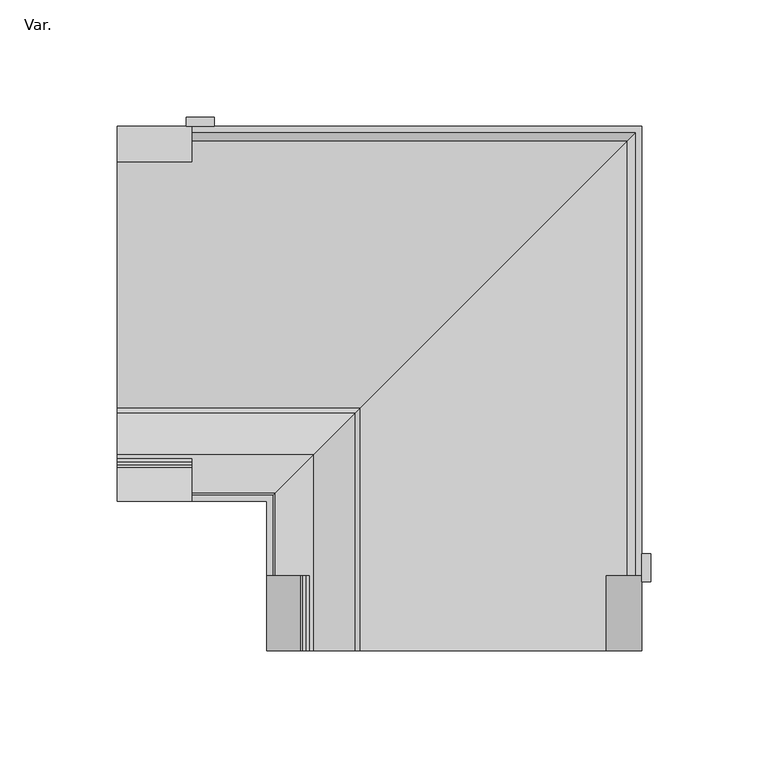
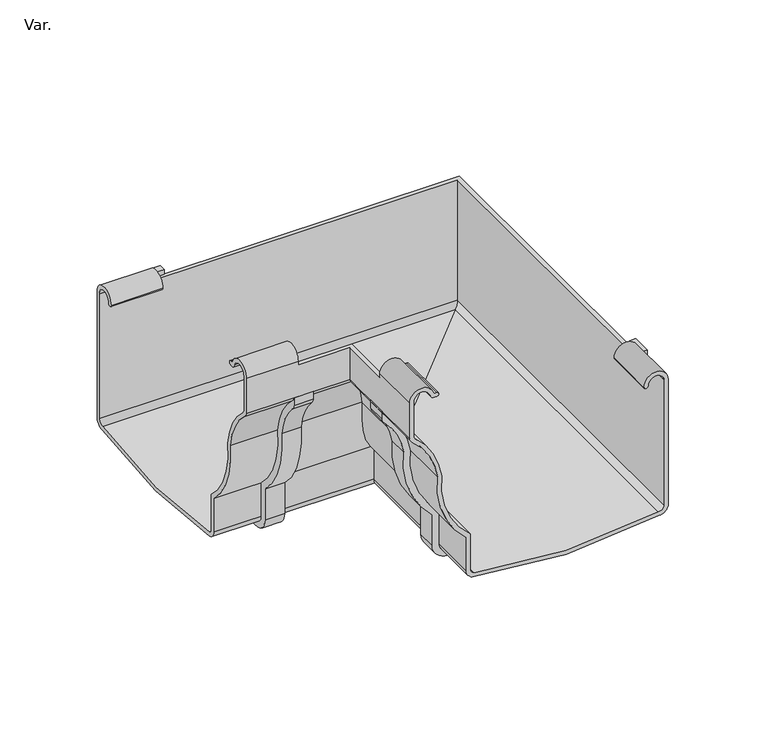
"""IFC4 building model written with IfcOpenShell, lengths in millimetres: pipe fitting geometry, PavcoWavin_UnionesDeTuberia_ZCanal Amazona_Unión Esquina Interna_NoUsarUnion : Var.."""

from ifc_helpers import new_model, si_unit, point, frame, frame_2d, origin, place, context, project, spatial, polyline, circle_curve, ellipse_curve, trimmed, segment, composite_curve, outline, extrude, source, transform, mapped, element, save
from ifc_brep_helpers import plane_surface, cylinder_surface, revolved_surface, advanced_brep


def var_6d9a4e36(model_context):
    return source(origin(), model_context, "Body", "SolidModel", [
        extrude(outline(composite_curve([segment(polyline([(67.1391462, 96.4962733), (67.1391462, 14.9603918)]), True, "CONTINUOUS"), segment(trimmed(circle_curve(frame_2d((57.6391462, 14.9603918)), 9.5), [point((67.1391462, 14.9603918))], [point((58.1593316, 5.4746443))], False, "CARTESIAN"), True, "CONTINUOUS"), segment(trimmed(circle_curve(frame_2d((0.2035402, 309.4999331)), 309.5), [point((58.1593316, 5.4746443))], [point((-58.1520806, 5.5511355))], False, "CARTESIAN"), True, "CONTINUOUS"), segment(trimmed(circle_curve(frame_2d((-56.3608741, 14.8807432)), 9.5), [point((-58.1520806, 5.5511355))], [point((-65.8608368, 14.9073616))], False, "CARTESIAN"), True, "CONTINUOUS"), segment(polyline([(-65.8608368, 14.9073616), (-65.8608368, 35.1173873)]), True, "CONTINUOUS"), segment(trimmed(circle_curve(frame_2d((-27.3837892, 76.4908911)), 56.5), [point((-65.8608368, 35.1173873))], [point((-83.5808004, 82.3343431))], False, "CARTESIAN"), True, "CONTINUOUS"), segment(trimmed(circle_curve(frame_2d((-124.6017275, 76.0467725)), 41.5), [point((-83.5808004, 82.3343431))], [point((-95.1706816, 105.305336))], True, "CARTESIAN"), True, "CONTINUOUS"), segment(trimmed(circle_curve(frame_2d((-90.8943152, 109.5566406)), 6.03), [point((-95.1706816, 105.305336))], [point((-96.8558619, 108.6506267))], False, "CARTESIAN"), True, "CONTINUOUS"), segment(polyline([(-96.8558619, 108.6506267), (-96.8558619, 113.6433286)]), True, "CONTINUOUS"), segment(trimmed(circle_curve(frame_2d((-91.4860039, 114.8327088)), 5.5), [point((-96.8558619, 113.6433286))], [point((-95.0573074, 110.6499117))], True, "CARTESIAN"), True, "CONTINUOUS"), segment(trimmed(circle_curve(frame_2d((-124.6017275, 76.0467725)), 45.5), [point((-95.0573074, 110.6499117))], [point((-79.5489715, 82.4106685))], False, "CARTESIAN"), True, "CONTINUOUS"), segment(trimmed(circle_curve(frame_2d((-27.3837892, 76.4908911)), 52.5), [point((-79.5489715, 82.4106685))], [point((-61.8608368, 36.8981747))], True, "CARTESIAN"), True, "CONTINUOUS"), segment(polyline([(-61.8608368, 36.8981747), (-61.8608368, 14.9009967)]), True, "CONTINUOUS"), segment(trimmed(circle_curve(frame_2d((-56.3608741, 14.8807432)), 5.5), [point((-61.8608368, 14.9009967))], [point((-57.3978884, 9.4793914))], True, "CARTESIAN"), True, "CONTINUOUS"), segment(trimmed(circle_curve(frame_2d((0.2035402, 309.4999331)), 305.5), [point((-57.3978884, 9.4793914))], [point((57.7081808, 9.4608251))], True, "CARTESIAN"), True, "CONTINUOUS"), segment(trimmed(circle_curve(frame_2d((57.6391462, 14.9603918)), 5.5), [point((57.7081808, 9.4608251))], [point((63.1391462, 14.9603918))], True, "CARTESIAN"), True, "CONTINUOUS"), segment(polyline([(63.1391462, 14.9603918), (63.1391462, 96.4962733), (67.1391462, 96.4962733)]), True, "CONTINUOUS")], self_intersect=False)), frame((29.5, 0.0, 0.0), z_axis=(1.0, 0.0, 0.0), x_axis=(0.0, 1.0, 0.0)), (0.0, 0.0, 1.0), 12.0),
        extrude(outline(composite_curve([segment(polyline([(96.4962733, 228.0), (96.4962733, 224.0), (14.9603918, 224.0)]), True, "CONTINUOUS"), segment(trimmed(circle_curve(frame_2d((14.9603918, 218.5)), 5.5), [point((14.9603918, 224.0))], [point((9.4608251, 218.5690345))], True, "CARTESIAN"), True, "CONTINUOUS"), segment(trimmed(circle_curve(frame_2d((309.4999331, 161.0643939)), 305.5), [point((9.4608251, 218.5690345))], [point((9.4793914, 103.4629654))], True, "CARTESIAN"), True, "CONTINUOUS"), segment(trimmed(circle_curve(frame_2d((14.8807432, 104.4999797)), 5.5), [point((9.4793914, 103.4629654))], [point((14.9009967, 99.000017))], True, "CARTESIAN"), True, "CONTINUOUS"), segment(polyline([(14.9009967, 99.000017), (36.8981747, 99.000017)]), True, "CONTINUOUS"), segment(trimmed(circle_curve(frame_2d((76.4908911, 133.4770645)), 52.5), [point((36.8981747, 99.000017))], [point((82.4106685, 81.3118823))], True, "CARTESIAN"), True, "CONTINUOUS"), segment(trimmed(circle_curve(frame_2d((76.0467725, 36.2591263)), 45.5), [point((82.4106685, 81.3118823))], [point((110.6499117, 65.8035463))], False, "CARTESIAN"), True, "CONTINUOUS"), segment(trimmed(circle_curve(frame_2d((114.8327088, 69.3748499)), 5.5), [point((110.6499117, 65.8035463))], [point((113.6433286, 64.0049919))], True, "CARTESIAN"), True, "CONTINUOUS"), segment(polyline([(113.6433286, 64.0049919), (108.6506267, 64.0049919)]), True, "CONTINUOUS"), segment(trimmed(circle_curve(frame_2d((109.5566406, 69.9665386)), 6.03), [point((108.6506267, 64.0049919))], [point((105.305336, 65.6901721))], False, "CARTESIAN"), True, "CONTINUOUS"), segment(trimmed(circle_curve(frame_2d((76.0467725, 36.2591263)), 41.5), [point((105.305336, 65.6901721))], [point((82.3343431, 77.2800533))], True, "CARTESIAN"), True, "CONTINUOUS"), segment(trimmed(circle_curve(frame_2d((76.4908911, 133.4770645)), 56.5), [point((82.3343431, 77.2800533))], [point((35.1173873, 95.000017))], False, "CARTESIAN"), True, "CONTINUOUS"), segment(polyline([(35.1173873, 95.000017), (14.9073616, 95.000017)]), True, "CONTINUOUS"), segment(trimmed(circle_curve(frame_2d((14.8807432, 104.4999797)), 9.5), [point((14.9073616, 95.000017))], [point((5.5511355, 102.7087732))], False, "CARTESIAN"), True, "CONTINUOUS"), segment(trimmed(circle_curve(frame_2d((309.4999331, 161.0643939)), 309.5), [point((5.5511355, 102.7087732))], [point((5.4746443, 219.0201853))], False, "CARTESIAN"), True, "CONTINUOUS"), segment(trimmed(circle_curve(frame_2d((14.9603918, 218.5)), 9.5), [point((5.4746443, 219.0201853))], [point((14.9603918, 228.0))], False, "CARTESIAN"), True, "CONTINUOUS"), segment(polyline([(14.9603918, 228.0), (96.4962733, 228.0)]), True, "CONTINUOUS")], self_intersect=False)), frame((0.0, -131.3608538, 0.0), z_axis=(0.0, 1.0, 0.0), x_axis=(0.0, 0.0, 1.0)), (0.0, 0.0, 1.0), 12.0),
        advanced_brep(
        [(0.0, 60.6391462, 96.4962733), (0.0, 50.6391462, 96.4962733), (0.0, 48.1391462, 96.4962733), (0.0, 63.1391462, 96.4962733), (0.0, 63.1391462, 14.8917906), (0.0, 57.3791008, 9.3979416), (0.0, -56.9720205, 9.3979416), (0.0, -61.8608538, 14.8917906), (0.0, -61.8608538, 36.8981894), (0.0, -79.5489715, 82.4106685), (0.0, -95.0573074, 110.6499117), (0.0, -96.8558619, 113.6433286), (0.0, -96.8558619, 136.5003446), (0.0, -82.4334339, 139.3865168), (0.0, -81.4533263, 137.9155581), (0.0, -80.1012344, 137.9155581), (0.0, -80.1012344, 135.4155581), (0.0, -82.3118155, 135.4155581), (0.0, -83.091705, 135.8658276), (0.0, -84.6616024, 138.2219509), (0.0, -94.3558619, 136.5003446), (0.0, -94.3558619, 114.5511348), (0.0, -93.2975048, 112.2642105), (0.0, -77.0397315, 82.3464353), (0.0, -59.3608538, 38.0530537), (0.0, -59.3608538, 14.8917906), (0.0, -56.9265182, 11.9345513), (0.0, 57.1074368, 11.8912192), (0.0, 60.6391462, 14.8917906), (221.5, 60.6391462, 14.8917906), (221.5, 60.6391462, 93.5145617), (32.0, 60.6391462, 93.5145617), (32.0, 60.6391462, 96.4962733), (217.9682906, 57.1074368, 11.8912192), (218.5003862, 57.6395324, 11.8436545), (103.9343355, -56.9265182, 11.9345513), (161.0643939, 0.2035402, 6.4999331), (101.5, -59.3608538, 14.8917906), (101.5, -59.3608538, 38.0530537), (83.8211223, -77.0397315, 82.3464353), (67.563349, -93.2975048, 112.2642105), (66.5049919, -94.3558619, 114.5511348), (32.0, -94.3558619, 136.5003446), (32.0, -94.3558619, 134.3054661), (66.5049919, -94.3558619, 134.3054661), (32.0, -84.6616024, 138.2219509), (32.0, -83.091705, 135.8658276), (32.0, -82.3118155, 135.4155581), (32.0, -80.1012344, 135.4155581), (32.0, -80.1012344, 137.9155581), (32.0, -81.4533263, 137.9155581), (64.0049919, -96.8558619, 113.6433286), (64.0049919, -96.8558619, 134.3054661), (32.0, -96.8558619, 134.3054661), (32.0, -96.8558619, 136.5003446), (65.8035463, -95.0573074, 110.6499117), (81.3118823, -79.5489715, 82.4106685), (99.0, -61.8608538, 36.8981894), (99.0, -61.8608538, 14.8917906), (103.8888333, -56.9720205, 9.3979416), (218.2399545, 57.3791008, 9.3979416), (161.0643939, 0.2035402, 3.9999331), (224.0, 63.1391462, 14.8917906), (218.5, 57.6391462, 9.3917906), (32.0, 63.1391462, 96.4962733), (32.0, 63.1391462, 93.5145617), (224.0, 63.1391462, 93.5145617), (32.0, 48.1391462, 96.4962733), (32.0, 50.6391462, 96.4962733), (32.0, -82.4334339, 139.3865168), (64.0049919, -128.8608538, 134.3054661), (66.5049919, -128.8608538, 134.3054661), (221.5, -128.8608538, 93.5145617), (224.0, -128.8608538, 93.5145617), (64.0049919, -128.8608538, 136.5003446), (78.4274199, -128.8608538, 139.3865168), (79.4075275, -128.8608538, 137.9155581), (80.7596194, -128.8608538, 137.9155581), (80.7596194, -128.8608538, 135.4155581), (78.5490383, -128.8608538, 135.4155581), (77.7691488, -128.8608538, 135.8658276), (76.1992513, -128.8608538, 138.2219509), (66.5049919, -128.8608538, 136.5003446), (221.5, -128.8608538, 96.4962733), (211.5, -128.8608538, 96.4962733), (209.0, -128.8608538, 96.4962733), (224.0, -128.8608538, 96.4962733), (221.5, -160.8608538, 96.4962733), (221.5, -160.8608538, 14.8917906), (217.9682906, -160.8608538, 11.8912192), (103.9343355, -160.8608538, 11.9345513), (101.5, -160.8608538, 14.8917906), (101.5, -160.8608538, 38.0530537), (83.8211223, -160.8608538, 82.3464353), (67.563349, -160.8608538, 112.2642105), (66.5049919, -160.8608538, 114.5511348), (66.5049919, -160.8608538, 136.5003446), (76.1992513, -160.8608538, 138.2219509), (77.7691488, -160.8608538, 135.8658276), (78.5490383, -160.8608538, 135.4155581), (80.7596194, -160.8608538, 135.4155581), (80.7596194, -160.8608538, 137.9155581), (79.4075275, -160.8608538, 137.9155581), (78.4274199, -160.8608538, 139.3865168), (64.0049919, -160.8608538, 136.5003446), (64.0049919, -160.8608538, 113.6433286), (65.8035463, -160.8608538, 110.6499117), (81.3118823, -160.8608538, 82.4106685), (99.0, -160.8608538, 36.8981894), (99.0, -160.8608538, 14.8917906), (103.8888333, -160.8608538, 9.3979416), (218.2399545, -160.8608538, 9.3979416), (224.0, -160.8608538, 14.8917906), (224.0, -160.8608538, 96.4962733), (209.0, -160.8608538, 96.4962733), (211.5, -160.8608538, 96.4962733)],
        [
            (0, 1, circle_curve(frame((0.0, 55.6391462, 96.4962733), z_axis=(1.0, 0.0, 0.0), x_axis=(0.0, -1.0, 0.0)), 5.0)),
            (1, 2, circle_curve(frame((0.0, 49.3891462, 96.4962733), z_axis=(-1.0, 0.0, 0.0), x_axis=(0.0, -1.0, 0.0)), 1.25)),
            (2, 3, circle_curve(frame((0.0, 55.6391462, 96.4962733), z_axis=(-1.0, 0.0, 0.0), x_axis=(0.0, -1.0, 0.0)), 7.5)),
            (3, 4),
            (4, 5, circle_curve(frame((0.0, 57.6391462, 14.8917906), z_axis=(-1.0, 0.0, 0.0), x_axis=(0.0, -1.0, 0.0)), 5.5)),
            (5, 6, circle_curve(frame((0.0, 0.2035402, 309.4999331), z_axis=(-1.0, 0.0, 0.0), x_axis=(0.0, -1.0, 0.0)), 305.5)),
            (6, 7, circle_curve(frame((0.0, -56.3295681, 14.8917906), z_axis=(-1.0, 0.0, 0.0), x_axis=(0.0, -1.0, 0.0)), 5.5312857)),
            (7, 8),
            (8, 9, circle_curve(frame((0.0, -27.3837892, 76.4908911), z_axis=(-1.0, 0.0, 0.0), x_axis=(0.0, -1.0, 0.0)), 52.5)),
            (9, 10, circle_curve(frame((0.0, -124.6017275, 76.0467725), z_axis=(1.0, 0.0, 0.0), x_axis=(0.0, -1.0, 0.0)), 45.5)),
            (10, 11, circle_curve(frame((0.0, -91.4860039, 114.8327088), z_axis=(-1.0, 0.0, 0.0), x_axis=(0.0, -1.0, 0.0)), 5.5)),
            (11, 12),
            (12, 13, circle_curve(frame((0.0, -89.3558619, 136.5003446), z_axis=(-1.0, 0.0, 0.0), x_axis=(0.0, -1.0, 0.0)), 7.5)),
            (13, 14),
            (14, 15),
            (15, 16, circle_curve(frame((0.0, -80.1012344, 136.6655581), z_axis=(-1.0, 0.0, 0.0), x_axis=(0.0, -1.0, 0.0)), 1.25)),
            (16, 17),
            (17, 18, circle_curve(frame((0.0, -82.0479215, 136.7731747), z_axis=(-1.0, 0.0, 0.0), x_axis=(0.0, -1.0, 0.0)), 1.3830266)),
            (18, 19),
            (19, 20, circle_curve(frame((0.0, -89.3558619, 136.5003446), z_axis=(1.0, 0.0, 0.0), x_axis=(0.0, -1.0, 0.0)), 5.0)),
            (20, 21),
            (21, 22, circle_curve(frame((0.0, -91.3558619, 114.5511348), z_axis=(1.0, 0.0, 0.0), x_axis=(0.0, -1.0, 0.0)), 3.0)),
            (22, 23, circle_curve(frame((0.0, -124.6017275, 75.8767725), z_axis=(-1.0, 0.0, 0.0), x_axis=(0.0, -1.0, 0.0)), 48.0)),
            (23, 24, circle_curve(frame((0.0, -27.3837892, 76.4908911), z_axis=(1.0, 0.0, 0.0), x_axis=(0.0, -1.0, 0.0)), 50.0)),
            (24, 25),
            (25, 26, circle_curve(frame((0.0, -56.3608741, 14.8807432), z_axis=(1.0, 0.0, 0.0), x_axis=(0.0, -1.0, 0.0)), 3.0)),
            (26, 27, circle_curve(frame((0.0, 0.2035402, 309.4999331), z_axis=(1.0, 0.0, 0.0), x_axis=(0.0, -1.0, 0.0)), 303.0)),
            (27, 28, circle_curve(frame((0.0, 57.6395324, 14.8436545), z_axis=(1.0, 0.0, 0.0), x_axis=(0.0, 1.0, 0.0)), 3.0)),
            (28, 0),
            (28, 29),
            (29, 30),
            (30, 31),
            (31, 32),
            (32, 0),
            (27, 33),
            (33, 34, ellipse_curve(frame((218.5003862, 57.6395324, 14.8436545), z_axis=(0.7071067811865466, -0.7071067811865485, 0.0), x_axis=(-0.7071067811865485, -0.7071067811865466, 0.0)), 4.2426407, 3.0)),
            (34, 29, ellipse_curve(frame((218.5003862, 57.6395324, 14.8436545), z_axis=(0.7071067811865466, -0.7071067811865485, 0.0), x_axis=(-0.7071067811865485, -0.7071067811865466, 0.0)), 4.2426407, 3.0)),
            (26, 35),
            (35, 36, ellipse_curve(frame((161.0643939, 0.2035402, 309.4999331), z_axis=(0.7071067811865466, -0.7071067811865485, 0.0), x_axis=(-0.7071067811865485, -0.7071067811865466, 0.0)), 428.5067094, 303.0)),
            (36, 33, ellipse_curve(frame((161.0643939, 0.2035402, 309.4999331), z_axis=(0.7071067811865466, -0.7071067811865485, 0.0), x_axis=(-0.7071067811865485, -0.7071067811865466, 0.0)), 428.5067094, 303.0)),
            (25, 37),
            (37, 35, ellipse_curve(frame((104.4999797, -56.3608741, 14.8807432), z_axis=(0.7071067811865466, -0.7071067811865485, 0.0), x_axis=(-0.7071067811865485, -0.7071067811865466, 0.0)), 4.2426407, 3.0)),
            (24, 38),
            (38, 37),
            (23, 39),
            (39, 38, ellipse_curve(frame((133.4770645, -27.3837892, 76.4908911), z_axis=(0.7071067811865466, -0.7071067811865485, 0.0), x_axis=(-0.7071067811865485, -0.7071067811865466, 0.0)), 70.7106781, 50.0)),
            (22, 40),
            (40, 39, ellipse_curve(frame((36.2591263, -124.6017275, 75.8767725), z_axis=(-0.7071067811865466, 0.7071067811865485, 0.0), x_axis=(0.7071067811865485, 0.7071067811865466, 0.0)), 67.882251, 48.0)),
            (21, 41),
            (41, 40, ellipse_curve(frame((69.5049919, -91.3558619, 114.5511348), z_axis=(0.7071067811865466, -0.7071067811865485, 0.0), x_axis=(-0.7071067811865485, -0.7071067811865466, 0.0)), 4.2426407, 3.0)),
            (20, 42),
            (42, 43),
            (43, 44),
            (44, 41),
            (19, 45),
            (45, 42, circle_curve(frame((32.0, -89.3558619, 136.5003446), z_axis=(1.0, 0.0, 0.0), x_axis=(0.0, -1.0, 0.0)), 5.0)),
            (18, 46),
            (46, 45),
            (17, 47),
            (47, 46, circle_curve(frame((32.0, -82.0479215, 136.7731747), z_axis=(-1.0, 0.0, 0.0), x_axis=(0.0, -1.0, 0.0)), 1.3830266)),
            (16, 48),
            (48, 47),
            (15, 49),
            (49, 48, circle_curve(frame((32.0, -80.1012344, 136.6655581), z_axis=(-1.0, 0.0, 0.0), x_axis=(0.0, -1.0, 0.0)), 1.25)),
            (14, 50),
            (50, 49),
            (11, 51),
            (51, 52),
            (52, 53),
            (53, 54),
            (54, 12),
            (10, 55),
            (55, 51, ellipse_curve(frame((69.3748499, -91.4860039, 114.8327088), z_axis=(-0.7071067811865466, 0.7071067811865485, 0.0), x_axis=(0.7071067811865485, 0.7071067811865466, 0.0)), 7.7781746, 5.5)),
            (9, 56),
            (56, 55, ellipse_curve(frame((36.2591263, -124.6017275, 76.0467725), z_axis=(0.7071067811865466, -0.7071067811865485, 0.0), x_axis=(-0.7071067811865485, -0.7071067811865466, 0.0)), 64.3467171, 45.5)),
            (8, 57),
            (57, 56, ellipse_curve(frame((133.4770645, -27.3837892, 76.4908911), z_axis=(-0.7071067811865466, 0.7071067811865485, 0.0), x_axis=(0.7071067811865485, 0.7071067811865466, 0.0)), 74.246212, 52.5)),
            (7, 58),
            (58, 57),
            (6, 59),
            (59, 58, ellipse_curve(frame((104.5312857, -56.3295681, 14.8917906), z_axis=(-0.7071067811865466, 0.7071067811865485, 0.0), x_axis=(0.7071067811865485, 0.7071067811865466, 0.0)), 7.8224192, 5.5312857)),
            (5, 60),
            (60, 61, ellipse_curve(frame((161.0643939, 0.2035402, 309.4999331), z_axis=(-0.7071067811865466, 0.7071067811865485, 0.0), x_axis=(0.7071067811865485, 0.7071067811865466, 0.0)), 432.0422433, 305.5)),
            (61, 59, ellipse_curve(frame((161.0643939, 0.2035402, 309.4999331), z_axis=(-0.7071067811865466, 0.7071067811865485, 0.0), x_axis=(0.7071067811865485, 0.7071067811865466, 0.0)), 432.0422433, 305.5)),
            (4, 62),
            (62, 63, ellipse_curve(frame((218.5, 57.6391462, 14.8917906), z_axis=(-0.7071067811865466, 0.7071067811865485, 0.0), x_axis=(0.7071067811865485, 0.7071067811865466, 0.0)), 7.7781746, 5.5)),
            (63, 60, ellipse_curve(frame((218.5, 57.6391462, 14.8917906), z_axis=(-0.7071067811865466, 0.7071067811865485, 0.0), x_axis=(0.7071067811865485, 0.7071067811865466, 0.0)), 7.7781746, 5.5)),
            (3, 64),
            (64, 65),
            (65, 66),
            (66, 62),
            (2, 67),
            (67, 64, circle_curve(frame((32.0, 55.6391462, 96.4962733), z_axis=(-1.0, 0.0, 0.0), x_axis=(0.0, -1.0, 0.0)), 7.5)),
            (1, 68),
            (68, 67, circle_curve(frame((32.0, 49.3891462, 96.4962733), z_axis=(-1.0, 0.0, 0.0), x_axis=(0.0, -1.0, 0.0)), 1.25)),
            (32, 68, circle_curve(frame((32.0, 55.6391462, 96.4962733), z_axis=(1.0, 0.0, 0.0), x_axis=(0.0, -1.0, 0.0)), 5.0)),
            (53, 43),
            (50, 69),
            (69, 54, circle_curve(frame((32.0, -89.3558619, 136.5003446), z_axis=(1.0, 0.0, 0.0), x_axis=(0.0, -1.0, 0.0)), 7.5)),
            (31, 65),
            (52, 70),
            (70, 71),
            (71, 44),
            (30, 72),
            (72, 73),
            (73, 66),
            (13, 69),
            (70, 74),
            (74, 75, circle_curve(frame((71.5049919, -128.8608538, 136.5003446), z_axis=(0.0, 1.0, 0.0), x_axis=(-1.0, 0.0, 0.0)), 7.5)),
            (75, 76),
            (76, 77),
            (77, 78, circle_curve(frame((80.7596194, -128.8608538, 136.6655581), z_axis=(0.0, 1.0, 0.0), x_axis=(-1.0, 0.0, 0.0)), 1.25)),
            (78, 79),
            (79, 80, circle_curve(frame((78.8129322, -128.8608538, 136.7731747), z_axis=(0.0, 1.0, 0.0), x_axis=(-1.0, 0.0, 0.0)), 1.3830266)),
            (80, 81),
            (81, 82, circle_curve(frame((71.5049919, -128.8608538, 136.5003446), z_axis=(0.0, -1.0, 0.0), x_axis=(-1.0, 0.0, 0.0)), 5.0)),
            (82, 71),
            (72, 83),
            (83, 84, circle_curve(frame((216.5, -128.8608538, 96.4962733), z_axis=(0.0, -1.0, 0.0), x_axis=(-1.0, 0.0, 0.0)), 5.0)),
            (84, 85, circle_curve(frame((210.25, -128.8608538, 96.4962733), z_axis=(0.0, 1.0, 0.0), x_axis=(-1.0, 0.0, 0.0)), 1.25)),
            (85, 86, circle_curve(frame((216.5, -128.8608538, 96.4962733), z_axis=(0.0, 1.0, 0.0), x_axis=(-1.0, 0.0, 0.0)), 7.5)),
            (86, 73),
            (87, 88),
            (88, 89, circle_curve(frame((218.5003862, -160.8608538, 14.8436545), z_axis=(0.0, 1.0, 0.0), x_axis=(1.0, 0.0, 0.0)), 3.0)),
            (89, 90, circle_curve(frame((161.0643939, -160.8608538, 309.4999331), z_axis=(0.0, 1.0, 0.0), x_axis=(-1.0, 0.0, 0.0)), 303.0)),
            (90, 91, circle_curve(frame((104.4999797, -160.8608538, 14.8807432), z_axis=(0.0, 1.0, 0.0), x_axis=(-1.0, 0.0, 0.0)), 3.0)),
            (91, 92),
            (92, 93, circle_curve(frame((133.4770645, -160.8608538, 76.4908911), z_axis=(0.0, 1.0, 0.0), x_axis=(-1.0, 0.0, 0.0)), 50.0)),
            (93, 94, circle_curve(frame((36.2591263, -160.8608538, 75.8767725), z_axis=(0.0, -1.0, 0.0), x_axis=(-1.0, 0.0, 0.0)), 48.0)),
            (94, 95, circle_curve(frame((69.5049919, -160.8608538, 114.5511348), z_axis=(0.0, 1.0, 0.0), x_axis=(-1.0, 0.0, 0.0)), 3.0)),
            (95, 96),
            (96, 97, circle_curve(frame((71.5049919, -160.8608538, 136.5003446), z_axis=(0.0, 1.0, 0.0), x_axis=(-1.0, 0.0, 0.0)), 5.0)),
            (97, 98),
            (98, 99, circle_curve(frame((78.8129322, -160.8608538, 136.7731747), z_axis=(0.0, -1.0, 0.0), x_axis=(-1.0, 0.0, 0.0)), 1.3830266)),
            (99, 100),
            (100, 101, circle_curve(frame((80.7596194, -160.8608538, 136.6655581), z_axis=(0.0, -1.0, 0.0), x_axis=(-1.0, 0.0, 0.0)), 1.25)),
            (101, 102),
            (102, 103),
            (103, 104, circle_curve(frame((71.5049919, -160.8608538, 136.5003446), z_axis=(0.0, -1.0, 0.0), x_axis=(-1.0, 0.0, 0.0)), 7.5)),
            (104, 105),
            (105, 106, circle_curve(frame((69.3748499, -160.8608538, 114.8327088), z_axis=(0.0, -1.0, 0.0), x_axis=(-1.0, 0.0, 0.0)), 5.5)),
            (106, 107, circle_curve(frame((36.2591263, -160.8608538, 76.0467725), z_axis=(0.0, 1.0, 0.0), x_axis=(-1.0, 0.0, 0.0)), 45.5)),
            (107, 108, circle_curve(frame((133.4770645, -160.8608538, 76.4908911), z_axis=(0.0, -1.0, 0.0), x_axis=(-1.0, 0.0, 0.0)), 52.5)),
            (108, 109),
            (109, 110, circle_curve(frame((104.5312857, -160.8608538, 14.8917906), z_axis=(0.0, -1.0, 0.0), x_axis=(-1.0, 0.0, 0.0)), 5.5312857)),
            (110, 111, circle_curve(frame((161.0643939, -160.8608538, 309.4999331), z_axis=(0.0, -1.0, 0.0), x_axis=(-1.0, 0.0, 0.0)), 305.5)),
            (111, 112, circle_curve(frame((218.5, -160.8608538, 14.8917906), z_axis=(0.0, -1.0, 0.0), x_axis=(-1.0, 0.0, 0.0)), 5.5)),
            (112, 113),
            (113, 114, circle_curve(frame((216.5, -160.8608538, 96.4962733), z_axis=(0.0, -1.0, 0.0), x_axis=(-1.0, 0.0, 0.0)), 7.5)),
            (114, 115, circle_curve(frame((210.25, -160.8608538, 96.4962733), z_axis=(0.0, -1.0, 0.0), x_axis=(-1.0, 0.0, 0.0)), 1.25)),
            (115, 87, circle_curve(frame((216.5, -160.8608538, 96.4962733), z_axis=(0.0, 1.0, 0.0), x_axis=(-1.0, 0.0, 0.0)), 5.0)),
            (87, 83),
            (29, 88),
            (33, 89),
            (35, 90),
            (37, 91),
            (38, 92),
            (39, 93),
            (40, 94),
            (41, 95),
            (82, 96),
            (81, 97),
            (80, 98),
            (79, 99),
            (78, 100),
            (77, 101),
            (76, 102),
            (104, 74),
            (51, 105),
            (55, 106),
            (56, 107),
            (57, 108),
            (58, 109),
            (59, 110),
            (60, 111),
            (62, 112),
            (86, 113),
            (85, 114),
            (84, 115),
            (75, 103),
        ],
        [
            plane_surface(frame((0.0, 60.6391462, 15.6878033), z_axis=(-1.0, 0.0, 0.0), x_axis=(0.0, 0.0, 1.0))),
            plane_surface(frame((224.0, 60.6391462, 96.4962733), z_axis=(0.0, -1.0, 0.0), x_axis=(-1.0, 0.0, 0.0))),
            revolved_surface(polyline([(0.0, 60.6395324, 14.8436545), (221.50038620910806, 60.6395324, 14.8436545)]), (0.0, 57.6395324, 14.8436545), (-1.0, 0.0, 0.0)),
            revolved_surface(polyline([(-141.9356061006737, -302.7964598, 309.4999331), (464.06439390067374, -302.7964598, 309.4999331)]), (0.0, 0.2035402, 309.4999331), (-1.0, 0.0, 0.0)),
            revolved_surface(polyline([(0.0, -59.3608741, 14.8807432), (107.49997970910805, -59.3608741, 14.8807432)]), (0.0, -56.3608741, 14.8807432), (-1.0, 0.0, 0.0)),
            plane_surface(frame((224.0, -59.3608538, 14.8917906), z_axis=(0.0, 1.0, 0.0), x_axis=(-1.0, 0.0, 0.0))),
            revolved_surface(polyline([(0.0, -77.3837892, 76.4908911), (183.47706448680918, -77.3837892, 76.4908911)]), (0.0, -27.3837892, 76.4908911), (-1.0, 0.0, 0.0)),
            cylinder_surface(frame((0.0, -124.6017275, 75.8767725), z_axis=(1.0, 0.0, 0.0), x_axis=(0.0, -1.0, 0.0)), 48.0),
            revolved_surface(polyline([(0.0, -94.3558619, 114.5511348), (72.50499190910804, -94.3558619, 114.5511348)]), (0.0, -91.3558619, 114.5511348), (-1.0, 0.0, 0.0)),
            plane_surface(frame((224.0, -94.3558619, 114.5511348), z_axis=(0.0, 1.0, 0.0), x_axis=(-1.0, 0.0, 0.0))),
            revolved_surface(polyline([(0.0, -94.3558619, 136.5003446), (32.0, -94.3558619, 136.5003446)]), (0.0, -89.3558619, 136.5003446), (-1.0, 0.0, 0.0)),
            plane_surface(frame((224.0, -84.6616024, 138.2219509), z_axis=(0.0, -0.8321890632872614, -0.5544919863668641), x_axis=(-1.0, 0.0, 0.0))),
            cylinder_surface(frame((0.0, -82.0479215, 136.7731747), z_axis=(1.0, 0.0, 0.0), x_axis=(0.0, -1.0, 0.0)), 1.3830266),
            plane_surface(frame((224.0, -82.3118155, 135.4155581), z_axis=(0.0, 0.0, -1.0), x_axis=(-1.0, 0.0, 0.0))),
            cylinder_surface(frame((0.0, -80.1012344, 136.6655581), z_axis=(1.0, 0.0, 0.0), x_axis=(0.0, -1.0, 0.0)), 1.25),
            plane_surface(frame((224.0, -80.1012344, 137.9155581), z_axis=(0.0, 0.0, 1.0), x_axis=(-1.0, 0.0, 0.0))),
            plane_surface(frame((224.0, -96.8558619, 136.5003446), z_axis=(0.0, -1.0, 0.0), x_axis=(-1.0, 0.0, 0.0))),
            cylinder_surface(frame((0.0, -91.4860039, 114.8327088), z_axis=(1.0, 0.0, 0.0), x_axis=(0.0, -1.0, 0.0)), 5.5),
            revolved_surface(polyline([(-9.240873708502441, -170.10172749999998, 76.0467725), (81.75912630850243, -170.10172749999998, 76.0467725)]), (0.0, -124.6017275, 76.0467725), (-1.0, 0.0, 0.0)),
            cylinder_surface(frame((0.0, -27.3837892, 76.4908911), z_axis=(1.0, 0.0, 0.0), x_axis=(0.0, -1.0, 0.0)), 52.5),
            plane_surface(frame((224.0, -61.8608538, 36.8981894), z_axis=(0.0, -1.0, 0.0), x_axis=(-1.0, 0.0, 0.0))),
            cylinder_surface(frame((0.0, -56.3295681, 14.8917906), z_axis=(1.0, 0.0, 0.0), x_axis=(0.0, -1.0, 0.0)), 5.5312857),
            cylinder_surface(frame((0.0, 0.2035402, 309.4999331), z_axis=(1.0, 0.0, 0.0), x_axis=(0.0, -1.0, 0.0)), 305.5),
            cylinder_surface(frame((0.0, 57.6391462, 14.8917906), z_axis=(1.0, 0.0, 0.0), x_axis=(0.0, -1.0, 0.0)), 5.5),
            plane_surface(frame((224.0, 63.1391462, 14.8917906), z_axis=(0.0, 1.0, 0.0), x_axis=(-1.0, 0.0, 0.0))),
            cylinder_surface(frame((0.0, 55.6391462, 96.4962733), z_axis=(1.0, 0.0, 0.0), x_axis=(0.0, -1.0, 0.0)), 7.5),
            cylinder_surface(frame((0.0, 49.3891462, 96.4962733), z_axis=(1.0, 0.0, 0.0), x_axis=(0.0, -1.0, 0.0)), 1.25),
            revolved_surface(polyline([(0.0, 50.6391462, 96.4962733), (32.0, 50.6391462, 96.4962733)]), (0.0, 55.6391462, 96.4962733), (-1.0, 0.0, 0.0)),
            plane_surface(frame((32.0, -80.1012344, 134.3054661), z_axis=(1.0, 0.0, 0.0), x_axis=(0.0, -1.0, 0.0))),
            plane_surface(frame((224.0, -96.8558619, 134.3054661), z_axis=(0.0, 0.0, 1.0), x_axis=(-1.0, 0.0, 0.0))),
            plane_surface(frame((224.0, 48.1391462, 93.5145617), z_axis=(0.0, 0.0, 1.0), x_axis=(-1.0, 0.0, 0.0))),
            plane_surface(frame((224.0, -81.4533263, 137.9155581), z_axis=(0.0, 0.8321890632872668, 0.5544919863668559), x_axis=(-1.0, 0.0, 0.0))),
            cylinder_surface(frame((0.0, -89.3558619, 136.5003446), z_axis=(1.0, 0.0, 0.0), x_axis=(0.0, -1.0, 0.0)), 7.5),
            plane_surface(frame((64.0049919, -128.8608538, 134.3054661), z_axis=(0.0, 1.0, 0.0), x_axis=(0.0, 0.0, -1.0))),
            plane_surface(frame((211.5, -160.8608538, 96.4962733), z_axis=(0.0, -1.0, 0.0), x_axis=(0.0, 0.0, 1.0))),
            plane_surface(frame((221.5, 63.1391462, 14.8917906), z_axis=(-1.0, 0.0, 0.0), x_axis=(0.0, -1.0, 0.0))),
            revolved_surface(polyline([(221.5003862, -160.8608538, 14.8436545), (221.5003862, 60.63953240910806, 14.8436545)]), (218.5003862, -160.8608538, 14.8436545), (0.0, -1.0, 0.0)),
            revolved_surface(polyline([(-141.9356061, -302.7964598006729, 309.4999331), (-141.9356061, 303.2035402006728, 309.4999331)]), (161.0643939, -160.8608538, 309.4999331), (0.0, -1.0, 0.0)),
            revolved_surface(polyline([(101.4999797, -160.8608538, 14.8807432), (101.4999797, -53.360874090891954, 14.8807432)]), (104.4999797, -160.8608538, 14.8807432), (0.0, -1.0, 0.0)),
            plane_surface(frame((101.5, 63.1391462, 38.0530537), z_axis=(1.0, 0.0, 0.0), x_axis=(0.0, -1.0, 0.0))),
            revolved_surface(polyline([(83.47706450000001, -160.8608538, 76.4908911), (83.47706450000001, 22.616210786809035, 76.4908911)]), (133.4770645, -160.8608538, 76.4908911), (0.0, -1.0, 0.0)),
            cylinder_surface(frame((36.2591263, -160.8608538, 75.8767725), z_axis=(0.0, 1.0, 0.0), x_axis=(-1.0, 0.0, 0.0)), 48.0),
            revolved_surface(polyline([(66.5049919, -160.8608538, 114.5511348), (66.5049919, -88.35586189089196, 114.5511348)]), (69.5049919, -160.8608538, 114.5511348), (0.0, -1.0, 0.0)),
            plane_surface(frame((66.5049919, 63.1391462, 136.5003446), z_axis=(1.0, 0.0, 0.0), x_axis=(0.0, -1.0, 0.0))),
            revolved_surface(polyline([(66.5049919, -160.8608538, 136.5003446), (66.5049919, -128.8608538, 136.5003446)]), (71.5049919, -160.8608538, 136.5003446), (0.0, -1.0, 0.0)),
            plane_surface(frame((77.7691488, 63.1391462, 135.8658276), z_axis=(-0.8321890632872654, 0.0, -0.5544919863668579), x_axis=(0.0, -1.0, 0.0))),
            cylinder_surface(frame((78.8129322, -160.8608538, 136.7731747), z_axis=(0.0, 1.0, 0.0), x_axis=(-1.0, 0.0, 0.0)), 1.3830266),
            plane_surface(frame((80.7596194, 63.1391462, 135.4155581), z_axis=(0.0, 0.0, -1.0), x_axis=(0.0, -1.0, 0.0))),
            cylinder_surface(frame((80.7596194, -160.8608538, 136.6655581), z_axis=(0.0, 1.0, 0.0), x_axis=(-1.0, 0.0, 0.0)), 1.25),
            plane_surface(frame((79.4075275, 63.1391462, 137.9155581), z_axis=(0.0, 0.0, 1.0), x_axis=(0.0, -1.0, 0.0))),
            plane_surface(frame((64.0049919, 63.1391462, 113.6433286), z_axis=(-1.0, 0.0, 0.0), x_axis=(0.0, -1.0, 0.0))),
            cylinder_surface(frame((69.3748499, -160.8608538, 114.8327088), z_axis=(0.0, 1.0, 0.0), x_axis=(-1.0, 0.0, 0.0)), 5.5),
            revolved_surface(polyline([(-9.240873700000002, -170.1017275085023, 76.0467725), (-9.240873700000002, -79.10172749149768, 76.0467725)]), (36.2591263, -160.8608538, 76.0467725), (0.0, -1.0, 0.0)),
            cylinder_surface(frame((133.4770645, -160.8608538, 76.4908911), z_axis=(0.0, 1.0, 0.0), x_axis=(-1.0, 0.0, 0.0)), 52.5),
            plane_surface(frame((99.0, 63.1391462, 14.8917906), z_axis=(-1.0, 0.0, 0.0), x_axis=(0.0, -1.0, 0.0))),
            cylinder_surface(frame((104.5312857, -160.8608538, 14.8917906), z_axis=(0.0, 1.0, 0.0), x_axis=(-1.0, 0.0, 0.0)), 5.5312857),
            cylinder_surface(frame((161.0643939, -160.8608538, 309.4999331), z_axis=(0.0, 1.0, 0.0), x_axis=(-1.0, 0.0, 0.0)), 305.5),
            cylinder_surface(frame((218.5, -160.8608538, 14.8917906), z_axis=(0.0, 1.0, 0.0), x_axis=(-1.0, 0.0, 0.0)), 5.5),
            plane_surface(frame((224.0, 63.1391462, 96.4962733), z_axis=(1.0, 0.0, 0.0), x_axis=(0.0, -1.0, 0.0))),
            cylinder_surface(frame((216.5, -160.8608538, 96.4962733), z_axis=(0.0, 1.0, 0.0), x_axis=(-1.0, 0.0, 0.0)), 7.5),
            cylinder_surface(frame((210.25, -160.8608538, 96.4962733), z_axis=(0.0, 1.0, 0.0), x_axis=(-1.0, 0.0, 0.0)), 1.25),
            revolved_surface(polyline([(211.5, -160.8608538, 96.4962733), (211.5, -128.8608538, 96.4962733)]), (216.5, -160.8608538, 96.4962733), (0.0, -1.0, 0.0)),
            plane_surface(frame((78.4274199, 63.1391462, 139.3865168), z_axis=(0.8321890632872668, 0.0, 0.5544919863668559), x_axis=(0.0, -1.0, 0.0))),
            cylinder_surface(frame((71.5049919, -160.8608538, 136.5003446), z_axis=(0.0, 1.0, 0.0), x_axis=(-1.0, 0.0, 0.0)), 7.5),
        ],
        [
            (0, [[1, 2, 3, 4, 5, 6, 7, 8, 9, 10, 11, 12, 13, 14, 15, 16, 17, 18, 19, 20, 21, 22, 23, 24, 25, 26, 27, 28, 29]]),
            (1, [[-29, 30, 31, 32, 33, 34]]),
            (2, [[-28, 35, 36, 37, -30]]),
            (3, [[-27, 38, 39, 40, -35]]),
            (4, [[-26, 41, 42, -38]]),
            (5, [[-25, 43, 44, -41]]),
            (6, [[-24, 45, 46, -43]]),
            (7, [[-23, 47, 48, -45]]),
            (8, [[-22, 49, 50, -47]]),
            (9, [[-21, 51, 52, 53, 54, -49]]),
            (10, [[-20, 55, 56, -51]]),
            (11, [[-19, 57, 58, -55]]),
            (12, [[-18, 59, 60, -57]]),
            (13, [[-17, 61, 62, -59]]),
            (14, [[-16, 63, 64, -61]]),
            (15, [[-15, 65, 66, -63]]),
            (16, [[-12, 67, 68, 69, 70, 71]]),
            (17, [[-11, 72, 73, -67]]),
            (18, [[-10, 74, 75, -72]]),
            (19, [[-9, 76, 77, -74]]),
            (20, [[-8, 78, 79, -76]]),
            (21, [[-7, 80, 81, -78]]),
            (22, [[-6, 82, 83, 84, -80]]),
            (23, [[-5, 85, 86, 87, -82]]),
            (24, [[-4, 88, 89, 90, 91, -85]]),
            (25, [[-3, 92, 93, -88]]),
            (26, [[-2, 94, 95, -92]]),
            (27, [[-1, -34, 96, -94]]),
            (28, [[97, -52, -56, -58, -60, -62, -64, -66, 98, 99, -70]]),
            (28, [[100, -89, -93, -95, -96, -33]]),
            (29, [[-97, -69, 101, 102, 103, -53]]),
            (30, [[-100, -32, 104, 105, 106, -90]]),
            (31, [[-14, 107, -98, -65]]),
            (32, [[-13, -71, -99, -107]]),
            (33, [[-102, 108, 109, 110, 111, 112, 113, 114, 115, 116, 117]]),
            (33, [[-105, 118, 119, 120, 121, 122]]),
            (34, [[123, 124, 125, 126, 127, 128, 129, 130, 131, 132, 133, 134, 135, 136, 137, 138, 139, 140, 141, 142, 143, 144, 145, 146, 147, 148, 149, 150, 151]]),
            (35, [[-123, 152, -118, -104, -31, 153]]),
            (36, [[-124, -153, -37, -36, 154]]),
            (37, [[-125, -154, -40, -39, 155]]),
            (38, [[-126, -155, -42, 156]]),
            (39, [[-127, -156, -44, 157]]),
            (40, [[-128, -157, -46, 158]]),
            (41, [[-129, -158, -48, 159]]),
            (42, [[-130, -159, -50, 160]]),
            (43, [[-131, -160, -54, -103, -117, 161]]),
            (44, [[-132, -161, -116, 162]]),
            (45, [[-133, -162, -115, 163]]),
            (46, [[-134, -163, -114, 164]]),
            (47, [[-135, -164, -113, 165]]),
            (48, [[-136, -165, -112, 166]]),
            (49, [[-137, -166, -111, 167]]),
            (50, [[-140, 168, -108, -101, -68, 169]]),
            (51, [[-141, -169, -73, 170]]),
            (52, [[-142, -170, -75, 171]]),
            (53, [[-143, -171, -77, 172]]),
            (54, [[-144, -172, -79, 173]]),
            (55, [[-145, -173, -81, 174]]),
            (56, [[-146, -174, -84, -83, 175]]),
            (57, [[-147, -175, -87, -86, 176]]),
            (58, [[-148, -176, -91, -106, -122, 177]]),
            (59, [[-149, -177, -121, 178]]),
            (60, [[-150, -178, -120, 179]]),
            (61, [[-151, -179, -119, -152]]),
            (62, [[-138, -167, -110, 180]]),
            (63, [[-139, -180, -109, -168]]),
        ],
    ),
    ])


if __name__ == "__main__":
    model = new_model("IFC4")
    model_context = context("Model", 3, world=origin())
    ifc_project = project(units=[si_unit("LENGTHUNIT", "METRE", prefix="MILLI")], contexts=[model_context])
    site = spatial("IfcSite", under=ifc_project)
    building = spatial("IfcBuilding", under=site)
    placement = place(None, origin())
    var_shape = var_6d9a4e36(model_context)
    element("IfcPipeFitting", 1, ObjectType="PavcoWavin_UnionesDeTuberia_ZCanal Amazona_Unión Esquina Interna_NoUsarUnion : Var.", at=placement, inside=building, context=model_context, shape_type="MappedRepresentation", body=[
        mapped(var_shape, transform((0.0, 0.0, 0.0), x_axis=(1.0, 0.0, 0.0), y_axis=(0.0, 1.0, 0.0), z_axis=(0.0, 0.0, 1.0))),
    ])
    save(model, "model.ifc")
